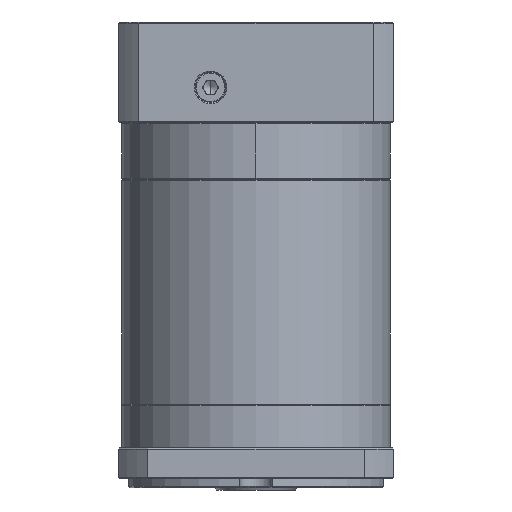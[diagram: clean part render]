
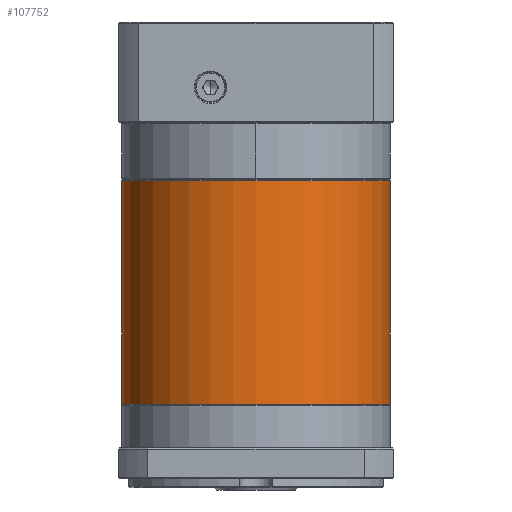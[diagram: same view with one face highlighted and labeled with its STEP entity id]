
A CAD part, front view. The second image highlights one B-rep face of the part: STEP entity #107752.
In plain terms, the highlighted cylindrical face has radius 57.5 mm (diameter 115 mm), a partial arc.
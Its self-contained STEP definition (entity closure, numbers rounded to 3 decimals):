
#2310 = EDGE_CURVE ( 'NONE', #45542, #49123, #48413, .T. ) ;
#7842 = LINE ( 'NONE', #73215, #63331 ) ;
#13001 = CARTESIAN_POINT ( 'NONE',  ( 119.036, 35.442, -162.638 ) ) ;
#13521 = CARTESIAN_POINT ( 'NONE',  ( 61.536, 35.442, -66.926 ) ) ;
#15698 = CIRCLE ( 'NONE', #87833, 57.5 ) ;
#15951 = CARTESIAN_POINT ( 'NONE',  ( 61.536, 35.442, -66.426 ) ) ;
#15998 = AXIS2_PLACEMENT_3D ( 'NONE', #87699, #29439, #78175 ) ;
#18510 = ORIENTED_EDGE ( 'NONE', *, *, #48868, .T. ) ;
#19526 = DIRECTION ( 'NONE',  ( 0., 0., -1. ) ) ;
#26551 = DIRECTION ( 'NONE',  ( -1., 0., 0. ) ) ;
#29439 = DIRECTION ( 'NONE',  ( 0., 0., 1. ) ) ;
#44101 = EDGE_CURVE ( 'NONE', #91440, #96614, #15698, .T. ) ;
#45542 = VERTEX_POINT ( 'NONE', #109934 ) ;
#48333 = DIRECTION ( 'NONE',  ( -1., 0., 0. ) ) ;
#48413 = LINE ( 'NONE', #52888, #94690 ) ;
#48868 = EDGE_CURVE ( 'NONE', #49123, #89375, #67885, .T. ) ;
#49123 = VERTEX_POINT ( 'NONE', #72988 ) ;
#52244 = EDGE_CURVE ( 'NONE', #96614, #45542, #121158, .T. ) ;
#52653 = DIRECTION ( 'NONE',  ( 0., 0., -1. ) ) ;
#52888 = CARTESIAN_POINT ( 'NONE',  ( 4.036, 35.442, -66.426 ) ) ;
#53815 = ORIENTED_EDGE ( 'NONE', *, *, #52244, .T. ) ;
#58227 = CARTESIAN_POINT ( 'NONE',  ( 61.536, 35.442, -66.926 ) ) ;
#62375 = DIRECTION ( 'NONE',  ( 0., 0., -1. ) ) ;
#63331 = VECTOR ( 'NONE', #84400, 1000. ) ;
#63511 = CYLINDRICAL_SURFACE ( 'NONE', #121748, 57.5 ) ;
#67885 = CIRCLE ( 'NONE', #15998, 57.5 ) ;
#72988 = CARTESIAN_POINT ( 'NONE',  ( 4.036, 35.442, -162.638 ) ) ;
#73215 = CARTESIAN_POINT ( 'NONE',  ( 119.036, 35.442, -66.426 ) ) ;
#75635 = CARTESIAN_POINT ( 'NONE',  ( 119.036, 35.442, -66.926 ) ) ;
#78175 = DIRECTION ( 'NONE',  ( -1., 0., 0. ) ) ;
#84400 = DIRECTION ( 'NONE',  ( 0., 0., -1. ) ) ;
#87699 = CARTESIAN_POINT ( 'NONE',  ( 61.536, 35.442, -162.638 ) ) ;
#87833 = AXIS2_PLACEMENT_3D ( 'NONE', #13521, #52653, #112701 ) ;
#89375 = VERTEX_POINT ( 'NONE', #13001 ) ;
#91440 = VERTEX_POINT ( 'NONE', #75635 ) ;
#94690 = VECTOR ( 'NONE', #62375, 1000. ) ;
#96614 = VERTEX_POINT ( 'NONE', #97440 ) ;
#97260 = ORIENTED_EDGE ( 'NONE', *, *, #125545, .F. ) ;
#97440 = CARTESIAN_POINT ( 'NONE',  ( 61.536, -22.058, -66.926 ) ) ;
#97955 = AXIS2_PLACEMENT_3D ( 'NONE', #58227, #19526, #48333 ) ;
#99224 = FACE_OUTER_BOUND ( 'NONE', #100141, .T. ) ;
#100141 = EDGE_LOOP ( 'NONE', ( #97260, #107261, #53815, #118979, #18510 ) ) ;
#105175 = DIRECTION ( 'NONE',  ( 0., 0., -1. ) ) ;
#107261 = ORIENTED_EDGE ( 'NONE', *, *, #44101, .T. ) ;
#107752 = ADVANCED_FACE ( 'NONE', ( #99224 ), #63511, .T. ) ;
#109934 = CARTESIAN_POINT ( 'NONE',  ( 4.036, 35.442, -66.926 ) ) ;
#112701 = DIRECTION ( 'NONE',  ( -1., 0., 0. ) ) ;
#118979 = ORIENTED_EDGE ( 'NONE', *, *, #2310, .T. ) ;
#121158 = CIRCLE ( 'NONE', #97955, 57.5 ) ;
#121748 = AXIS2_PLACEMENT_3D ( 'NONE', #15951, #105175, #26551 ) ;
#125545 = EDGE_CURVE ( 'NONE', #91440, #89375, #7842, .T. ) ;
